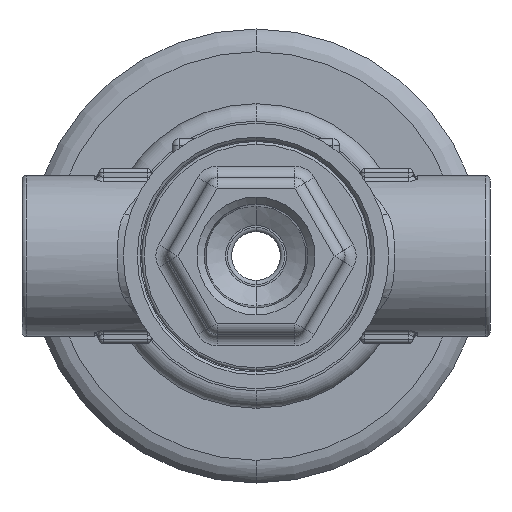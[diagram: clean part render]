
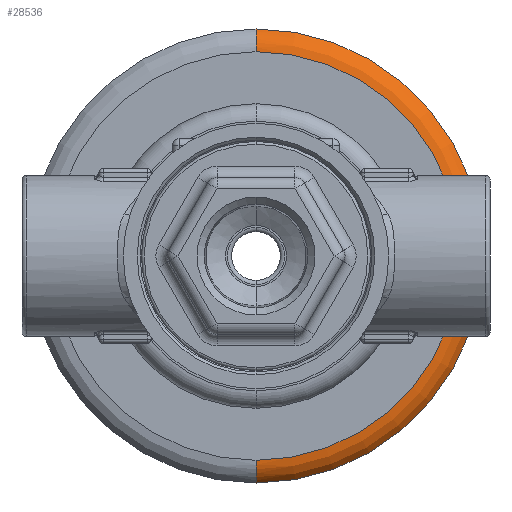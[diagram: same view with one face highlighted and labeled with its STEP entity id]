
A CAD part, front view. The second image highlights one B-rep face of the part: STEP entity #28536.
In plain terms, the highlighted toroidal (fillet/blend) face has major radius 37.148 mm and minor radius 4.763 mm.
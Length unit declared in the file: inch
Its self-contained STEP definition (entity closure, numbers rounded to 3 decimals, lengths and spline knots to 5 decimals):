
#7166 = EDGE_LOOP ( 'NONE', ( #11722, #11723, #11724, #11725 ) ) ;
#7472 = VERTEX_POINT ( 'NONE', #10523 ) ;
#8812 = AXIS2_PLACEMENT_3D ( 'NONE', #24229, #24227, #24232 ) ;
#10523 = CARTESIAN_POINT ( 'NONE',  ( 0., 2.03, -1.4625 ) ) ;
#11722 = ORIENTED_EDGE ( 'NONE', *, *, #35402, .T. ) ;
#11723 = ORIENTED_EDGE ( 'NONE', *, *, #35419, .T. ) ;
#11724 = ORIENTED_EDGE ( 'NONE', *, *, #35420, .F. ) ;
#11725 = ORIENTED_EDGE ( 'NONE', *, *, #35421, .F. ) ;
#13066 = CIRCLE ( 'NONE', #15421, 1.625 ) ;
#13098 = CIRCLE ( 'NONE', #15431, 0.1875 ) ;
#13105 = CIRCLE ( 'NONE', #15429, 0.1875 ) ;
#13109 = CIRCLE ( 'NONE', #15430, 1.4625 ) ;
#14651 = CARTESIAN_POINT ( 'NONE',  ( 0., 2.12396, 0. ) ) ;
#14652 = DIRECTION ( 'NONE',  ( 0., -1., 0. ) ) ;
#14653 = DIRECTION ( 'NONE',  ( 0., 0., 1. ) ) ;
#14769 = CARTESIAN_POINT ( 'NONE',  ( 0., 2.2175, 1.4625 ) ) ;
#14770 = DIRECTION ( 'NONE',  ( 1., 0., 0. ) ) ;
#14771 = DIRECTION ( 'NONE',  ( 0., 0., -1. ) ) ;
#14772 = CARTESIAN_POINT ( 'NONE',  ( 0., 2.03, 0. ) ) ;
#14773 = DIRECTION ( 'NONE',  ( 0., -1., 0. ) ) ;
#14774 = DIRECTION ( 'NONE',  ( 0., 0., -1. ) ) ;
#14776 = CARTESIAN_POINT ( 'NONE',  ( 0., 2.2175, -1.4625 ) ) ;
#14777 = DIRECTION ( 'NONE',  ( -1., 0., 0. ) ) ;
#14778 = DIRECTION ( 'NONE',  ( 0., 0., 1. ) ) ;
#15421 = AXIS2_PLACEMENT_3D ( 'NONE', #14651, #14652, #14653 ) ;
#15429 = AXIS2_PLACEMENT_3D ( 'NONE', #14769, #14770, #14771 ) ;
#15430 = AXIS2_PLACEMENT_3D ( 'NONE', #14772, #14773, #14774 ) ;
#15431 = AXIS2_PLACEMENT_3D ( 'NONE', #14776, #14777, #14778 ) ;
#20453 = CARTESIAN_POINT ( 'NONE',  ( 0., 2.12396, 1.625 ) ) ;
#20459 = CARTESIAN_POINT ( 'NONE',  ( 0., 2.03, 1.4625 ) ) ;
#20462 = CARTESIAN_POINT ( 'NONE',  ( 0., 2.12396, -1.625 ) ) ;
#24227 = DIRECTION ( 'NONE',  ( 0., -1., 0. ) ) ;
#24229 = CARTESIAN_POINT ( 'NONE',  ( 0., 2.2175, 0. ) ) ;
#24232 = DIRECTION ( 'NONE',  ( 0., 0., -1. ) ) ;
#24761 = FACE_OUTER_BOUND ( 'NONE', #7166, .T. ) ;
#24762 = TOROIDAL_SURFACE ( 'NONE', #8812, 1.4625, 0.1875 ) ;
#28536 = ADVANCED_FACE ( 'NONE', ( #24761 ), #24762, .T. ) ;
#35402 = EDGE_CURVE ( 'NONE', #38877, #38868, #13066, .T. ) ;
#35419 = EDGE_CURVE ( 'NONE', #38868, #38874, #13105, .T. ) ;
#35420 = EDGE_CURVE ( 'NONE', #7472, #38874, #13109, .T. ) ;
#35421 = EDGE_CURVE ( 'NONE', #38877, #7472, #13098, .T. ) ;
#38868 = VERTEX_POINT ( 'NONE', #20453 ) ;
#38874 = VERTEX_POINT ( 'NONE', #20459 ) ;
#38877 = VERTEX_POINT ( 'NONE', #20462 ) ;
